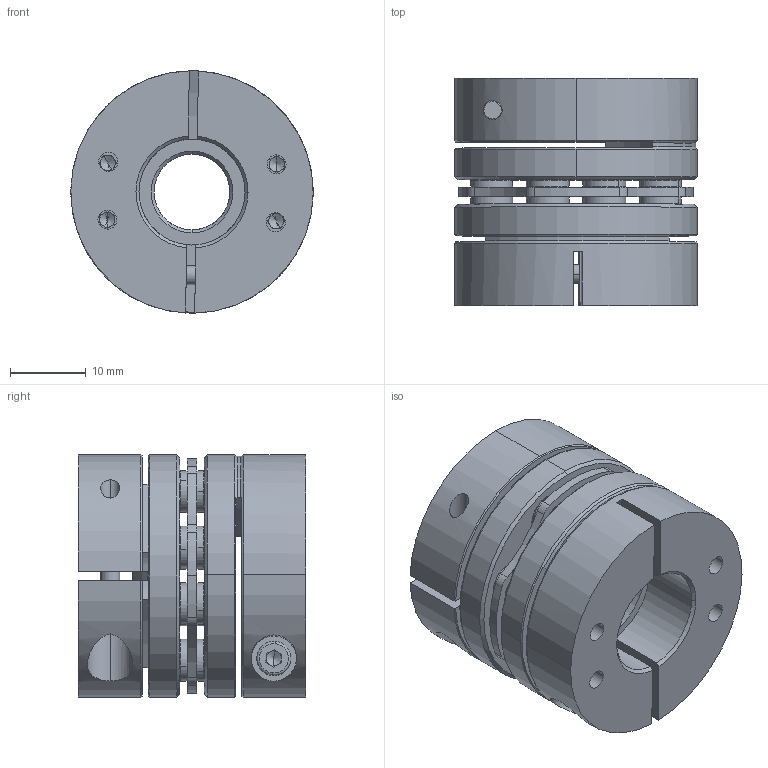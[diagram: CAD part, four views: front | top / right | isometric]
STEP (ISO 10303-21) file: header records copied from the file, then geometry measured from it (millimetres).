
FILE_DESCRIPTION (( 'STEP AP203' ), '1' );
FILE_NAME ('LDG-32-B1-10-14.STEP', '2021-10-28T05:15:56', ( '' ), ( '' ), 'SwSTEP 2.0', 'SolidWorks 2018', '' );
FILE_SCHEMA (( 'CONFIG_CONTROL_DESIGN' ));
Length unit declared in the file: millimetre
Products named in the file (2): LDG-32-B1-10-14; 錨璃5^LDG-32蚾饜芞1
Assembly tree (1 placements, depth 2):
  LDG-32-B1-10-14
    錨璃5^LDG-32蚾饜芞1
Bounding box: 32 x 30 x 32 mm (x, y, z)
Volume: 16933.8 mm3; surface area: 13038.2 mm2
Topology: 1 solids, 11 shells, 795 faces, 1967 edges, 1216 vertices
Faces by surface type: cylinder 301, plane 244, cone 230, torus 20
Entity records: 24191 total; most frequent: CARTESIAN_POINT 4472, DIRECTION 4465, ORIENTED_EDGE 3878, EDGE_CURVE 1939, AXIS2_PLACEMENT_3D 1819, VERTEX_POINT 1216, CIRCLE 1020, EDGE_LOOP 939
